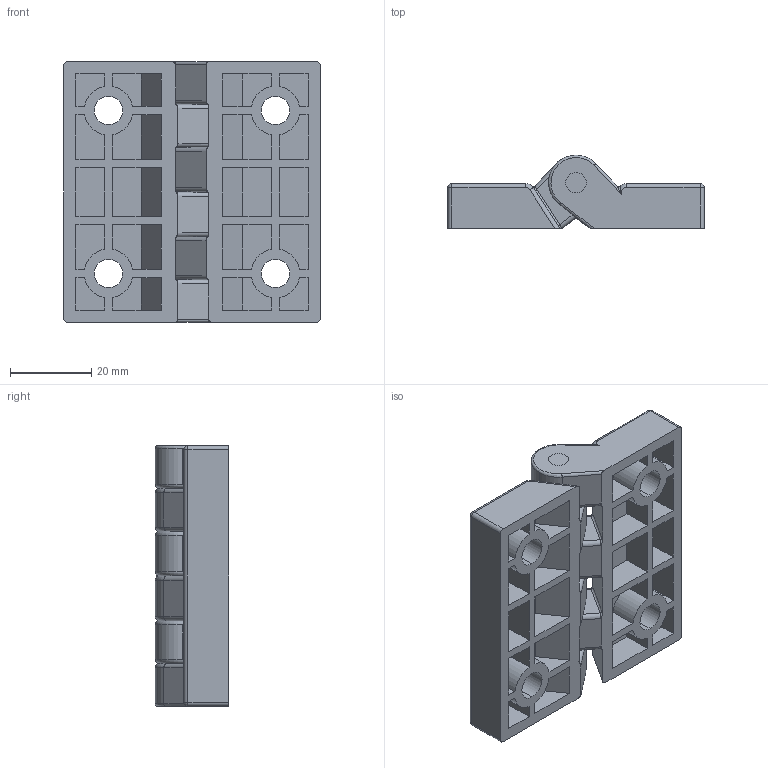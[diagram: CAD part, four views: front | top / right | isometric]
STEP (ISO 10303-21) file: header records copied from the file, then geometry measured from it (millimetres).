
FILE_DESCRIPTION (( 'STEP AP214' ), '1' );
FILE_NAME ('SK2-234-4.STEP', '2020-03-26T03:18:50', ( 'admin' ), ( 'Microsoft' ), 'SwSTEP 2.0', 'SolidWorks 2018', '' );
FILE_SCHEMA (( 'AUTOMOTIVE_DESIGN' ));
Length unit declared in the file: millimetre
Products named in the file (3): 2-234-4.种隊; 2-234-4; SK2-234-4
Assembly tree (3 placements, depth 2):
  SK2-234-4
    2-234-4  x2
    2-234-4.种隊
Bounding box: 63 x 17.99 x 64 mm (x, y, z)
Volume: 34286.1 mm3; surface area: 20932.6 mm2
Topology: 3 solids, 3 shells, 306 faces, 750 edges, 464 vertices
Faces by surface type: plane 140, cylinder 104, bspline 34, torus 16, cone 8, sphere 4
Entity records: 5008 total; most frequent: CARTESIAN_POINT 1346, ORIENTED_EDGE 750, DIRECTION 728, EDGE_CURVE 375, AXIS2_PLACEMENT_3D 255, VERTEX_POINT 234, LINE 218, VECTOR 218
